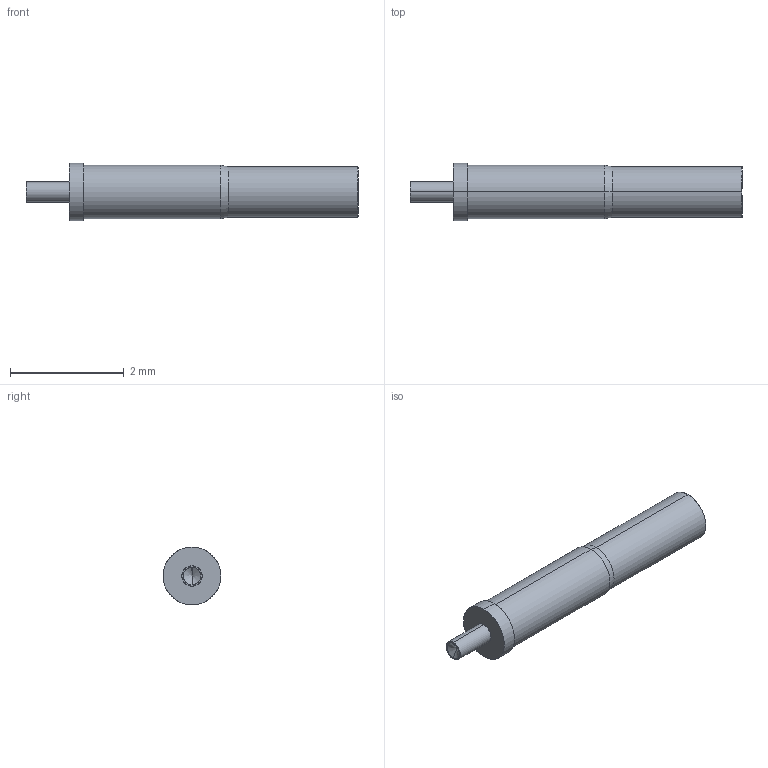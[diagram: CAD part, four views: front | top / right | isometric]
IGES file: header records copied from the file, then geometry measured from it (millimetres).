
Start section: SolidWorks IGES file using analytic representation for surfaces
Global section: file name: O:\PYLON\IGES FILES\A-S\A-S-V.IGS; native system: SolidWorks 2015; preprocessor: SolidWorks 2015; author: kgolden; date: 171023.151210; units: inch
Bounding box: 5.84 x 1.02 x 1.02 mm (x, y, z)
Surface area: 19.4 mm2 (no closed solid volume)
Topology: 0 solids, 0 shells, 19 faces, 200 edges, 198 vertices
Faces by surface type: revolution 14, bspline 5
